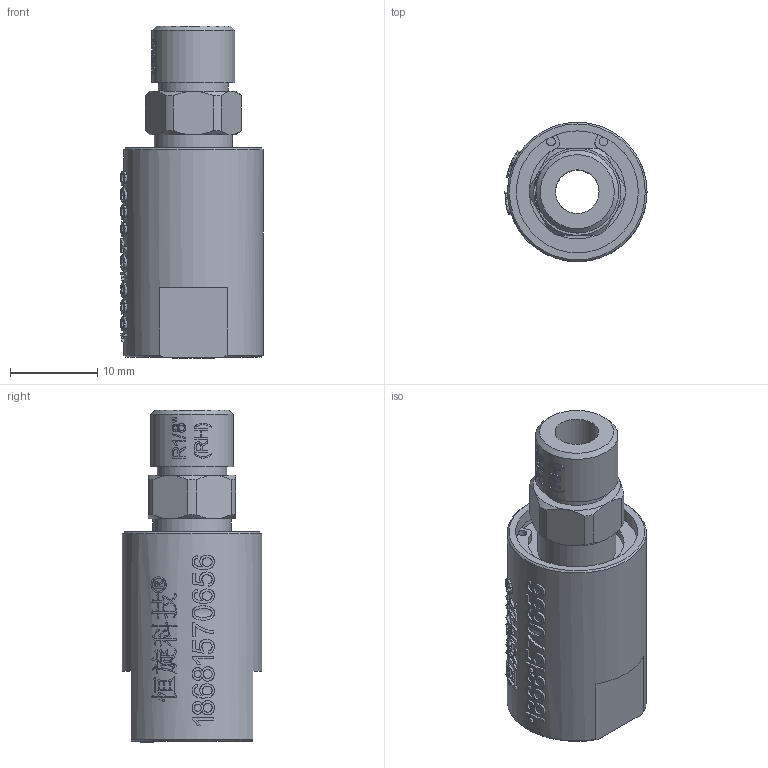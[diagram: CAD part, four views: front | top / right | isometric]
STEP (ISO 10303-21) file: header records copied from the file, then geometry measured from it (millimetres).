
FILE_DESCRIPTION(/* description */ (''),/* implementation_level */ '2;1');
FILE_NAME(/* name */ 'HQK0101(RH)-3D模型.stp',/* time_stamp */ '2025-07-08T14:26:32+08:00',/* author */ (''),/* organization */ (''),/* preprocessor_version */ 'ST-DEVELOPER v16.7',/* originating_system */ 'SIEMENS PLM Software NX 12.0',/* authorisation */ '');
FILE_SCHEMA (('AUTOMOTIVE_DESIGN { 1 0 10303 214 3 1 1 1 }'));
Length unit declared in the file: millimetre
Products named in the file (1): Admi1E18C0B7215s
Bounding box: 16.3 x 16 x 38.1 mm (x, y, z)
Volume: 4573.7 mm3; surface area: 3131.3 mm2
Topology: 1 solids, 1 shells, 907 faces, 2492 edges, 1660 vertices
Faces by surface type: extrusion 496, plane 312, cylinder 45, bspline 38, cone 16
Full cylindrical faces by diameter (mm): 1 x2, 5 x1, 8 x1, 8.5 x1, 9 x1, 9.5 x1, 14 x1, 15 x1, 16 x1
Entity records: 36646 total; most frequent: CARTESIAN_POINT 17361, ORIENTED_EDGE 4948, EDGE_CURVE 2474, B_SPLINE_CURVE_WITH_KNOTS 2451, DIRECTION 2012, VERTEX_POINT 1654, EDGE_LOOP 994, ADVANCED_FACE 907
